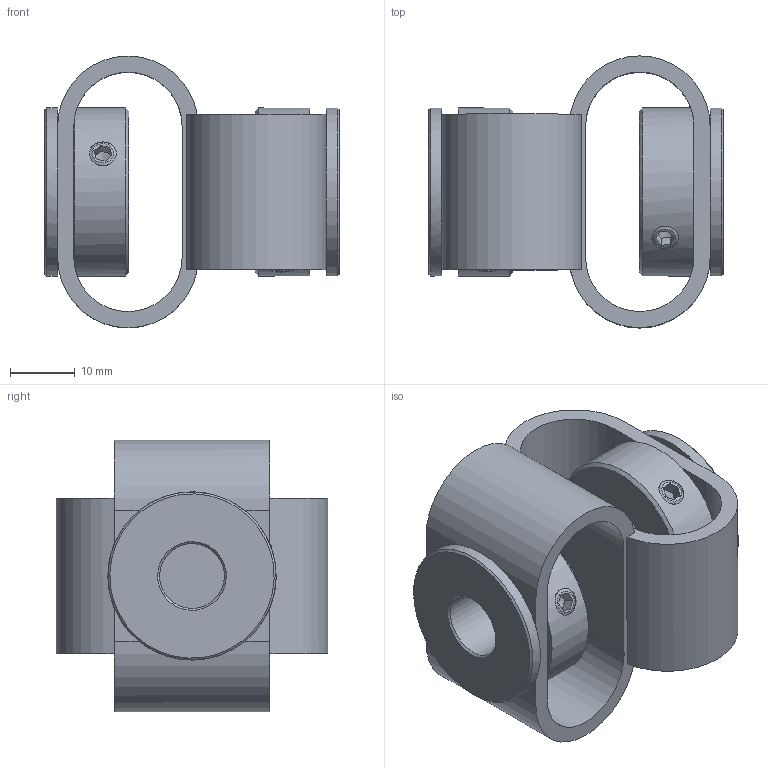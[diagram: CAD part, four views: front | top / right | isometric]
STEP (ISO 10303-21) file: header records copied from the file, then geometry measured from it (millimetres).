
FILE_DESCRIPTION(/* description */ (''),/* implementation_level */ '2;1');
FILE_NAME(/* name */ 'E:\ABP_bauteile\Doppelschlaufenkupplung\DKPS_4848\Doppelschlaufenkupplung_DKPS_4848_10_10.stp',/* time_stamp */ '2015-03-13T14:14:56+01:00',/* author */ ('Rob'),/* organization */ (''),/* preprocessor_version */ 'ST-DEVELOPER v15.6',/* originating_system */ 'Autodesk Inventor 2015',/* authorisation */ '');
FILE_SCHEMA (('CONFIG_CONTROL_DESIGN'));
Length unit declared in the file: millimetre
Products named in the file (1): Bauteil36
Bounding box: 45.55 x 42.03 x 42.03 mm (x, y, z)
Volume: 19679 mm3; surface area: 13430.9 mm2
Topology: 1 solids, 2 shells, 134 faces, 311 edges, 188 vertices
Faces by surface type: plane 83, cylinder 27, cone 24
Full cylindrical faces by diameter (mm): 4.134 x8, 10 x2, 16.5 x2, 18 x3, 26 x4
Entity records: 3580 total; most frequent: CARTESIAN_POINT 849, DIRECTION 588, ORIENTED_EDGE 470, EDGE_CURVE 235, AXIS2_PLACEMENT_3D 234, EDGE_LOOP 198, VERTEX_POINT 155, FACE_OUTER_BOUND 134
